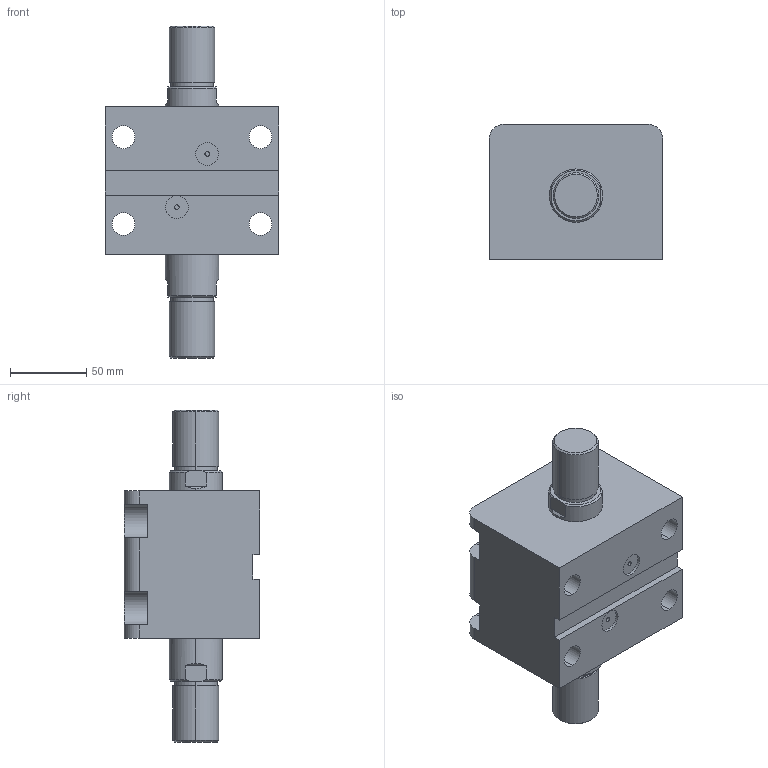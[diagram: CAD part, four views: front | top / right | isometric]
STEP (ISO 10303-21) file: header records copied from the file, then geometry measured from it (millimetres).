
FILE_DESCRIPTION (( 'STEP AP203' ), '1' );
FILE_NAME ('HTB-LWM63-15W.STEP', '2021-07-13T02:51:07', ( '微软用户' ), ( '微软中国' ), 'SwSTEP 2.0', 'SolidWorks 2012', '' );
FILE_SCHEMA (( 'CONFIG_CONTROL_DESIGN' ));
Length unit declared in the file: millimetre
Products named in the file (3): HTB-LWM63-15W; HTB-LWM63-15W活塞杆; HTB-LWM63-15掛极
Assembly tree (2 placements, depth 2):
  HTB-LWM63-15W
    HTB-LWM63-15掛极
    HTB-LWM63-15W活塞杆
Bounding box: 114 x 89 x 218 mm (x, y, z)
Volume: 955583.9 mm3; surface area: 121564 mm2
Topology: 2 solids, 2 shells, 106 faces, 258 edges, 168 vertices
Faces by surface type: cylinder 46, plane 44, torus 8, cone 8
Entity records: 3483 total; most frequent: CARTESIAN_POINT 593, DIRECTION 580, ORIENTED_EDGE 516, EDGE_CURVE 258, AXIS2_PLACEMENT_3D 227, VERTEX_POINT 168, EDGE_LOOP 128, VECTOR 126
